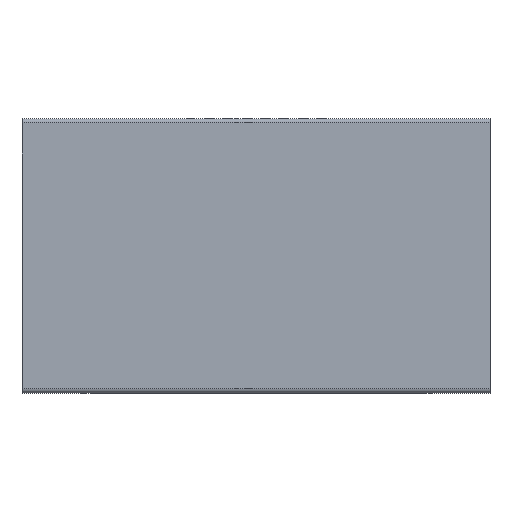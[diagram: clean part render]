
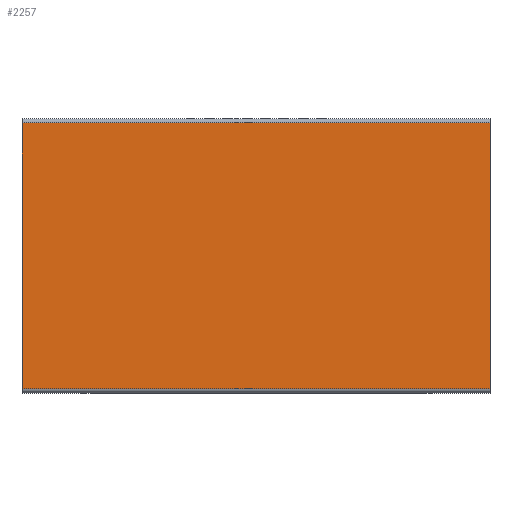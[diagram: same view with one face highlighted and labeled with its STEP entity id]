
A CAD part, top view. The second image highlights one B-rep face of the part: STEP entity #2257.
In plain terms, the highlighted planar face has unit normal (0, 0, 1).
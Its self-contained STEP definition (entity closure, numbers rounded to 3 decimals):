
#274 = PLANE('',#275);
#275 = AXIS2_PLACEMENT_3D('',#276,#277,#278);
#276 = CARTESIAN_POINT('',(65.,-38.1,14.7));
#277 = DIRECTION('',(1.,0.,0.));
#278 = DIRECTION('',(0.,0.,1.));
#330 = PLANE('',#331);
#331 = AXIS2_PLACEMENT_3D('',#332,#333,#334);
#332 = CARTESIAN_POINT('',(-65.,-38.1,14.7));
#333 = DIRECTION('',(1.,0.,0.));
#334 = DIRECTION('',(0.,0.,1.));
#356 = CYLINDRICAL_SURFACE('',#357,1.2);
#357 = AXIS2_PLACEMENT_3D('',#358,#359,#360);
#358 = CARTESIAN_POINT('',(-65.,-36.9,89.7));
#359 = DIRECTION('',(1.,0.,0.));
#360 = DIRECTION('',(0.,-1.,0.));
#906 = VERTEX_POINT('',#907);
#907 = CARTESIAN_POINT('',(65.,36.9,90.9));
#922 = CYLINDRICAL_SURFACE('',#923,1.2);
#923 = AXIS2_PLACEMENT_3D('',#924,#925,#926);
#924 = CARTESIAN_POINT('',(-65.,36.9,89.7));
#925 = DIRECTION('',(1.,0.,0.));
#926 = DIRECTION('',(-0.,1.,0.));
#934 = EDGE_CURVE('',#935,#906,#937,.T.);
#935 = VERTEX_POINT('',#936);
#936 = CARTESIAN_POINT('',(65.,-36.9,90.9));
#937 = SURFACE_CURVE('',#938,(#942,#949),.PCURVE_S1.);
#938 = LINE('',#939,#940);
#939 = CARTESIAN_POINT('',(65.,-38.1,90.9));
#940 = VECTOR('',#941,1.);
#941 = DIRECTION('',(0.,1.,0.));
#942 = PCURVE('',#274,#943);
#943 = DEFINITIONAL_REPRESENTATION('',(#944),#948);
#944 = LINE('',#945,#946);
#945 = CARTESIAN_POINT('',(76.2,0.));
#946 = VECTOR('',#947,1.);
#947 = DIRECTION('',(0.,-1.));
#948 = ( GEOMETRIC_REPRESENTATION_CONTEXT(2) 
PARAMETRIC_REPRESENTATION_CONTEXT() REPRESENTATION_CONTEXT('2D SPACE',''
  ) );
#949 = PCURVE('',#950,#955);
#950 = PLANE('',#951);
#951 = AXIS2_PLACEMENT_3D('',#952,#953,#954);
#952 = CARTESIAN_POINT('',(-65.,-38.1,90.9));
#953 = DIRECTION('',(0.,0.,1.));
#954 = DIRECTION('',(1.,0.,0.));
#955 = DEFINITIONAL_REPRESENTATION('',(#956),#960);
#956 = LINE('',#957,#958);
#957 = CARTESIAN_POINT('',(130.,0.));
#958 = VECTOR('',#959,1.);
#959 = DIRECTION('',(0.,1.));
#960 = ( GEOMETRIC_REPRESENTATION_CONTEXT(2) 
PARAMETRIC_REPRESENTATION_CONTEXT() REPRESENTATION_CONTEXT('2D SPACE',''
  ) );
#1264 = VERTEX_POINT('',#1265);
#1265 = CARTESIAN_POINT('',(-65.,-36.9,90.9));
#1291 = EDGE_CURVE('',#1264,#935,#1292,.T.);
#1292 = SURFACE_CURVE('',#1293,(#1297,#1304),.PCURVE_S1.);
#1293 = LINE('',#1294,#1295);
#1294 = CARTESIAN_POINT('',(-65.,-36.9,90.9));
#1295 = VECTOR('',#1296,1.);
#1296 = DIRECTION('',(1.,0.,0.));
#1297 = PCURVE('',#356,#1298);
#1298 = DEFINITIONAL_REPRESENTATION('',(#1299),#1303);
#1299 = LINE('',#1300,#1301);
#1300 = CARTESIAN_POINT('',(-1.571,0.));
#1301 = VECTOR('',#1302,1.);
#1302 = DIRECTION('',(-0.,1.));
#1303 = ( GEOMETRIC_REPRESENTATION_CONTEXT(2) 
PARAMETRIC_REPRESENTATION_CONTEXT() REPRESENTATION_CONTEXT('2D SPACE',''
  ) );
#1304 = PCURVE('',#950,#1305);
#1305 = DEFINITIONAL_REPRESENTATION('',(#1306),#1310);
#1306 = LINE('',#1307,#1308);
#1307 = CARTESIAN_POINT('',(0.,1.2));
#1308 = VECTOR('',#1309,1.);
#1309 = DIRECTION('',(1.,0.));
#1310 = ( GEOMETRIC_REPRESENTATION_CONTEXT(2) 
PARAMETRIC_REPRESENTATION_CONTEXT() REPRESENTATION_CONTEXT('2D SPACE',''
  ) );
#1394 = VERTEX_POINT('',#1395);
#1395 = CARTESIAN_POINT('',(-65.,36.9,90.9));
#1417 = EDGE_CURVE('',#1264,#1394,#1418,.T.);
#1418 = SURFACE_CURVE('',#1419,(#1423,#1430),.PCURVE_S1.);
#1419 = LINE('',#1420,#1421);
#1420 = CARTESIAN_POINT('',(-65.,-38.1,90.9));
#1421 = VECTOR('',#1422,1.);
#1422 = DIRECTION('',(0.,1.,0.));
#1423 = PCURVE('',#330,#1424);
#1424 = DEFINITIONAL_REPRESENTATION('',(#1425),#1429);
#1425 = LINE('',#1426,#1427);
#1426 = CARTESIAN_POINT('',(76.2,0.));
#1427 = VECTOR('',#1428,1.);
#1428 = DIRECTION('',(0.,-1.));
#1429 = ( GEOMETRIC_REPRESENTATION_CONTEXT(2) 
PARAMETRIC_REPRESENTATION_CONTEXT() REPRESENTATION_CONTEXT('2D SPACE',''
  ) );
#1430 = PCURVE('',#950,#1431);
#1431 = DEFINITIONAL_REPRESENTATION('',(#1432),#1436);
#1432 = LINE('',#1433,#1434);
#1433 = CARTESIAN_POINT('',(0.,0.));
#1434 = VECTOR('',#1435,1.);
#1435 = DIRECTION('',(0.,1.));
#1436 = ( GEOMETRIC_REPRESENTATION_CONTEXT(2) 
PARAMETRIC_REPRESENTATION_CONTEXT() REPRESENTATION_CONTEXT('2D SPACE',''
  ) );
#2257 = ADVANCED_FACE('',(#2258),#950,.T.);
#2258 = FACE_BOUND('',#2259,.T.);
#2259 = EDGE_LOOP('',(#2260,#2261,#2262,#2263));
#2260 = ORIENTED_EDGE('',*,*,#1417,.F.);
#2261 = ORIENTED_EDGE('',*,*,#1291,.T.);
#2262 = ORIENTED_EDGE('',*,*,#934,.T.);
#2263 = ORIENTED_EDGE('',*,*,#2264,.F.);
#2264 = EDGE_CURVE('',#1394,#906,#2265,.T.);
#2265 = SURFACE_CURVE('',#2266,(#2270,#2277),.PCURVE_S1.);
#2266 = LINE('',#2267,#2268);
#2267 = CARTESIAN_POINT('',(-65.,36.9,90.9));
#2268 = VECTOR('',#2269,1.);
#2269 = DIRECTION('',(1.,0.,0.));
#2270 = PCURVE('',#950,#2271);
#2271 = DEFINITIONAL_REPRESENTATION('',(#2272),#2276);
#2272 = LINE('',#2273,#2274);
#2273 = CARTESIAN_POINT('',(0.,75.));
#2274 = VECTOR('',#2275,1.);
#2275 = DIRECTION('',(1.,0.));
#2276 = ( GEOMETRIC_REPRESENTATION_CONTEXT(2) 
PARAMETRIC_REPRESENTATION_CONTEXT() REPRESENTATION_CONTEXT('2D SPACE',''
  ) );
#2277 = PCURVE('',#922,#2278);
#2278 = DEFINITIONAL_REPRESENTATION('',(#2279),#2283);
#2279 = LINE('',#2280,#2281);
#2280 = CARTESIAN_POINT('',(1.571,0.));
#2281 = VECTOR('',#2282,1.);
#2282 = DIRECTION('',(0.,1.));
#2283 = ( GEOMETRIC_REPRESENTATION_CONTEXT(2) 
PARAMETRIC_REPRESENTATION_CONTEXT() REPRESENTATION_CONTEXT('2D SPACE',''
  ) );
